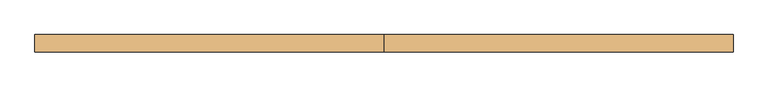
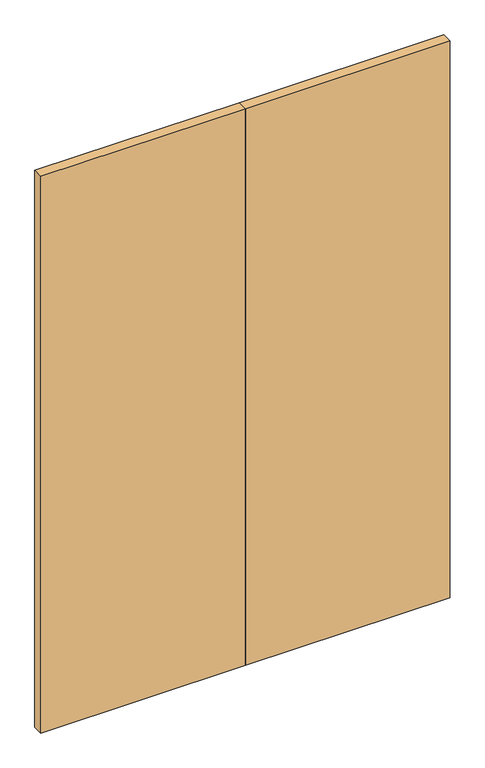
"""IFC4 building model written with IfcOpenShell, lengths in millimetres: door geometry, 営_両開き扉 : SD3c 1600*2300 2."""

from ifc_helpers import new_model, si_unit, origin, origin_with_axes, place, context, project, spatial, polyline, outline, extrude, source, transform, mapped, element, save


def door_db44657f(model_context):
    return source(origin(), model_context, "Body", "SweptSolid", [
        extrude(outline(polyline([(0.0, -15.0), (800.0, -15.0), (800.0, -55.0), (0.0, -55.0), (0.0, -15.0)])), origin_with_axes(), (0.0, 0.0, 1.0), 2300.0),
        extrude(outline(polyline([(0.0, -15.0), (0.0, -55.0), (-800.0, -55.0), (-800.0, -15.0), (0.0, -15.0)])), origin_with_axes(), (0.0, 0.0, 1.0), 2300.0),
    ])


if __name__ == "__main__":
    model = new_model("IFC4")
    model_context = context("Model", 3, world=origin())
    ifc_project = project(units=[si_unit("LENGTHUNIT", "METRE", prefix="MILLI")], contexts=[model_context])
    site = spatial("IfcSite", under=ifc_project)
    building = spatial("IfcBuilding", under=site)
    placement = place(None, origin())
    door_shape = door_db44657f(model_context)
    element("IfcDoor", 1, ObjectType="営_両開き扉 : SD3c 1600*2300 2", at=placement, inside=building, context=model_context, shape_type="MappedRepresentation", body=[
        mapped(door_shape, transform((0.0, 0.0, 0.0), x_axis=(1.0, 0.0, 0.0), y_axis=(0.0, 1.0, 0.0), z_axis=(0.0, 0.0, 1.0))),
    ])
    save(model, "model.ifc")
